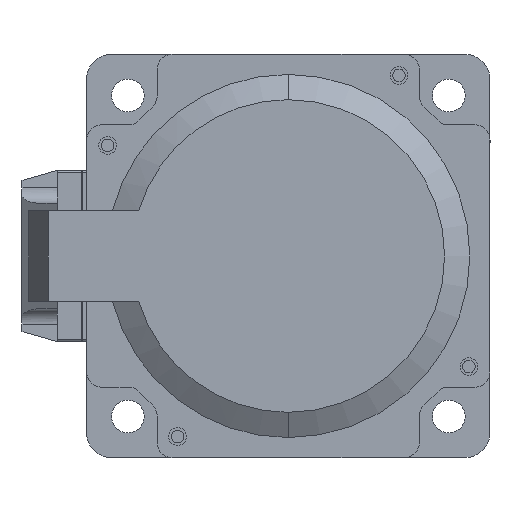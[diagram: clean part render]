
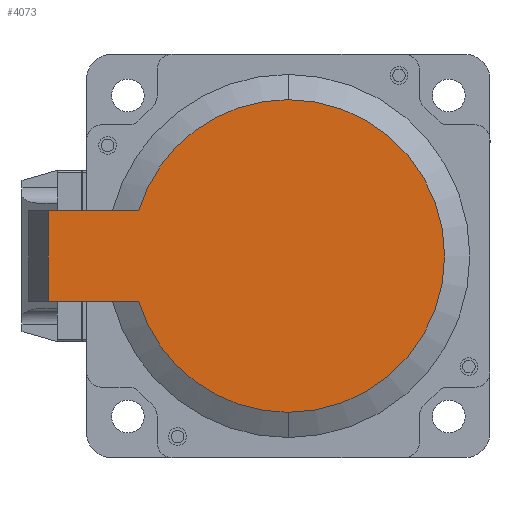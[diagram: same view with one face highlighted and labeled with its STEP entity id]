
A CAD part, left-side view. The second image highlights one B-rep face of the part: STEP entity #4073.
In plain terms, the highlighted planar face has unit normal (-1, 0, 0).
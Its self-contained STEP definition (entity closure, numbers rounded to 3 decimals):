
#576 = EDGE_CURVE ( 'NONE', #45488, #58313, #27971, .T. ) ;
#875 = CARTESIAN_POINT ( 'NONE',  ( 1137.005, -306.205, 0. ) ) ;
#2904 = CIRCLE ( 'NONE', #16769, 31. ) ;
#3652 = DIRECTION ( 'NONE',  ( 0., 0., -1. ) ) ;
#4073 = ADVANCED_FACE ( 'NONE', ( #78473 ), #26694, .T. ) ;
#4514 = CARTESIAN_POINT ( 'NONE',  ( 1137.005, -258.657, 9. ) ) ;
#7016 = DIRECTION ( 'NONE',  ( -1., 0., 0. ) ) ;
#7948 = DIRECTION ( 'NONE',  ( 0., 0., -1. ) ) ;
#9082 = CARTESIAN_POINT ( 'NONE',  ( 1137.005, -258.657, 9. ) ) ;
#10952 = DIRECTION ( 'NONE',  ( 0., 1., 0. ) ) ;
#11303 = LINE ( 'NONE', #47350, #62517 ) ;
#15040 = LINE ( 'NONE', #25705, #83941 ) ;
#16381 = ORIENTED_EDGE ( 'NONE', *, *, #44073, .F. ) ;
#16769 = AXIS2_PLACEMENT_3D ( 'NONE', #47029, #7016, #53763 ) ;
#19736 = VECTOR ( 'NONE', #10952, 1000. ) ;
#23316 = CARTESIAN_POINT ( 'NONE',  ( 1137.005, -306.205, 31. ) ) ;
#25705 = CARTESIAN_POINT ( 'NONE',  ( 1137.005, -258.657, -9. ) ) ;
#26694 = PLANE ( 'NONE',  #64343 ) ;
#27971 = CIRCLE ( 'NONE', #66890, 31. ) ;
#31791 = CARTESIAN_POINT ( 'NONE',  ( 1137.005, -258.657, -9. ) ) ;
#36120 = CARTESIAN_POINT ( 'NONE',  ( 1137.005, -306.205, 0. ) ) ;
#39230 = CIRCLE ( 'NONE', #83346, 31. ) ;
#39828 = ORIENTED_EDGE ( 'NONE', *, *, #61090, .T. ) ;
#40717 = DIRECTION ( 'NONE',  ( 0., 0., -1. ) ) ;
#43661 = DIRECTION ( 'NONE',  ( -1., 0., 0. ) ) ;
#44073 = EDGE_CURVE ( 'NONE', #50869, #68447, #15040, .T. ) ;
#45488 = VERTEX_POINT ( 'NONE', #62196 ) ;
#46153 = DIRECTION ( 'NONE',  ( 0., 0., 1. ) ) ;
#47029 = CARTESIAN_POINT ( 'NONE',  ( 1137.005, -306.205, 0. ) ) ;
#47256 = ORIENTED_EDGE ( 'NONE', *, *, #61960, .T. ) ;
#47350 = CARTESIAN_POINT ( 'NONE',  ( 1137.005, -258.657, -9. ) ) ;
#47653 = DIRECTION ( 'NONE',  ( -1., 0., 0. ) ) ;
#47926 = VERTEX_POINT ( 'NONE', #23316 ) ;
#50869 = VERTEX_POINT ( 'NONE', #31791 ) ;
#53763 = DIRECTION ( 'NONE',  ( 0., 0., -1. ) ) ;
#53978 = CARTESIAN_POINT ( 'NONE',  ( 1137.005, -276.54, 9. ) ) ;
#54181 = EDGE_CURVE ( 'NONE', #47926, #59548, #39230, .T. ) ;
#58313 = VERTEX_POINT ( 'NONE', #70447 ) ;
#59039 = ORIENTED_EDGE ( 'NONE', *, *, #576, .T. ) ;
#59548 = VERTEX_POINT ( 'NONE', #53978 ) ;
#60521 = DIRECTION ( 'NONE',  ( 0., 1., 0. ) ) ;
#60611 = DIRECTION ( 'NONE',  ( -1., 0., 0. ) ) ;
#61090 = EDGE_CURVE ( 'NONE', #59548, #68447, #84501, .T. ) ;
#61960 = EDGE_CURVE ( 'NONE', #58313, #47926, #2904, .T. ) ;
#62196 = CARTESIAN_POINT ( 'NONE',  ( 1137.005, -276.54, -9. ) ) ;
#62517 = VECTOR ( 'NONE', #60521, 1000. ) ;
#64343 = AXIS2_PLACEMENT_3D ( 'NONE', #80092, #60611, #40717 ) ;
#66890 = AXIS2_PLACEMENT_3D ( 'NONE', #36120, #43661, #3652 ) ;
#68447 = VERTEX_POINT ( 'NONE', #9082 ) ;
#69940 = EDGE_CURVE ( 'NONE', #45488, #50869, #11303, .T. ) ;
#70447 = CARTESIAN_POINT ( 'NONE',  ( 1137.005, -306.205, -31. ) ) ;
#74161 = EDGE_LOOP ( 'NONE', ( #80771, #59039, #47256, #85829, #39828, #16381 ) ) ;
#78473 = FACE_OUTER_BOUND ( 'NONE', #74161, .T. ) ;
#80092 = CARTESIAN_POINT ( 'NONE',  ( 1137.005, -306.205, -31. ) ) ;
#80771 = ORIENTED_EDGE ( 'NONE', *, *, #69940, .F. ) ;
#83346 = AXIS2_PLACEMENT_3D ( 'NONE', #875, #47653, #7948 ) ;
#83941 = VECTOR ( 'NONE', #46153, 1000. ) ;
#84501 = LINE ( 'NONE', #4514, #19736 ) ;
#85829 = ORIENTED_EDGE ( 'NONE', *, *, #54181, .T. ) ;
